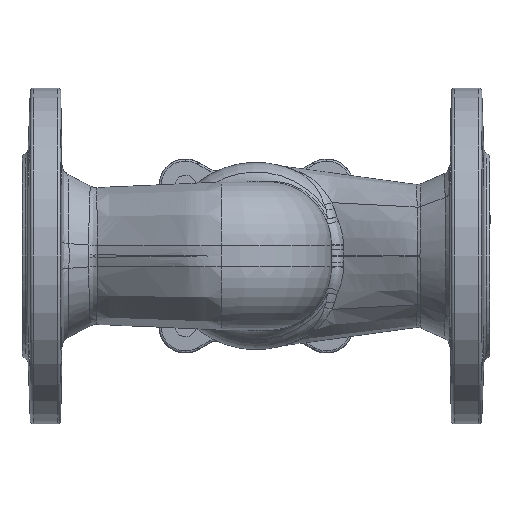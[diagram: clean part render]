
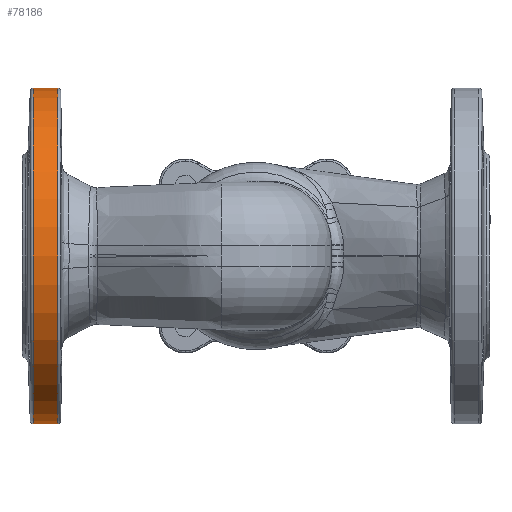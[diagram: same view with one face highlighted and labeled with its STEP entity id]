
A CAD part, front view. The second image highlights one B-rep face of the part: STEP entity #78186.
In plain terms, the highlighted cylindrical face has radius 82.5 mm (diameter 165 mm), a partial arc.
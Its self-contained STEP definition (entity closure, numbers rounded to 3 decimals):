
#181 = AXIS2_PLACEMENT_3D ( 'NONE', #38697, #30797, #38150 ) ;
#1149 = CARTESIAN_POINT ( 'NONE',  ( 0., 0., 82.5 ) ) ;
#10187 = DIRECTION ( 'NONE',  ( 0., 0., 1. ) ) ;
#16111 = VECTOR ( 'NONE', #47276, 1000. ) ;
#18341 = CIRCLE ( 'NONE', #56126, 82.5 ) ;
#20265 = LINE ( 'NONE', #97372, #16111 ) ;
#24138 = ORIENTED_EDGE ( 'NONE', *, *, #68846, .F. ) ;
#24715 = CARTESIAN_POINT ( 'NONE',  ( 5.54, 0., 82.5 ) ) ;
#25460 = ORIENTED_EDGE ( 'NONE', *, *, #68579, .T. ) ;
#29303 = CARTESIAN_POINT ( 'NONE',  ( 17.526, 0., 0. ) ) ;
#30797 = DIRECTION ( 'NONE',  ( -1., 0., 0. ) ) ;
#37673 = VECTOR ( 'NONE', #69808, 1000. ) ;
#38150 = DIRECTION ( 'NONE',  ( 0., 0., 1. ) ) ;
#38697 = CARTESIAN_POINT ( 'NONE',  ( 0., 0., 0. ) ) ;
#39113 = EDGE_CURVE ( 'NONE', #58697, #108514, #48032, .T. ) ;
#47276 = DIRECTION ( 'NONE',  ( -1., 0., 0. ) ) ;
#48032 = CIRCLE ( 'NONE', #60612, 82.5 ) ;
#51112 = CARTESIAN_POINT ( 'NONE',  ( 17.526, 0., -82.5 ) ) ;
#52499 = CARTESIAN_POINT ( 'NONE',  ( 5.54, 0., 0. ) ) ;
#56126 = AXIS2_PLACEMENT_3D ( 'NONE', #52499, #86784, #104236 ) ;
#56656 = ORIENTED_EDGE ( 'NONE', *, *, #39113, .T. ) ;
#56686 = CYLINDRICAL_SURFACE ( 'NONE', #181, 82.5 ) ;
#58697 = VERTEX_POINT ( 'NONE', #51112 ) ;
#60612 = AXIS2_PLACEMENT_3D ( 'NONE', #29303, #95730, #10187 ) ;
#60776 = VERTEX_POINT ( 'NONE', #94444 ) ;
#68579 = EDGE_CURVE ( 'NONE', #108514, #99524, #70914, .T. ) ;
#68846 = EDGE_CURVE ( 'NONE', #58697, #60776, #20265, .T. ) ;
#69808 = DIRECTION ( 'NONE',  ( -1., 0., 0. ) ) ;
#70914 = LINE ( 'NONE', #1149, #37673 ) ;
#78186 = ADVANCED_FACE ( 'NONE', ( #88761 ), #56686, .T. ) ;
#81663 = ORIENTED_EDGE ( 'NONE', *, *, #87491, .F. ) ;
#86784 = DIRECTION ( 'NONE',  ( -1., 0., 0. ) ) ;
#87491 = EDGE_CURVE ( 'NONE', #60776, #99524, #18341, .T. ) ;
#88761 = FACE_OUTER_BOUND ( 'NONE', #106047, .T. ) ;
#92722 = CARTESIAN_POINT ( 'NONE',  ( 17.526, 0., 82.5 ) ) ;
#94444 = CARTESIAN_POINT ( 'NONE',  ( 5.54, 0., -82.5 ) ) ;
#95730 = DIRECTION ( 'NONE',  ( -1., 0., 0. ) ) ;
#97372 = CARTESIAN_POINT ( 'NONE',  ( 0., 0., -82.5 ) ) ;
#99524 = VERTEX_POINT ( 'NONE', #24715 ) ;
#104236 = DIRECTION ( 'NONE',  ( 0., 0., 1. ) ) ;
#106047 = EDGE_LOOP ( 'NONE', ( #24138, #56656, #25460, #81663 ) ) ;
#108514 = VERTEX_POINT ( 'NONE', #92722 ) ;
